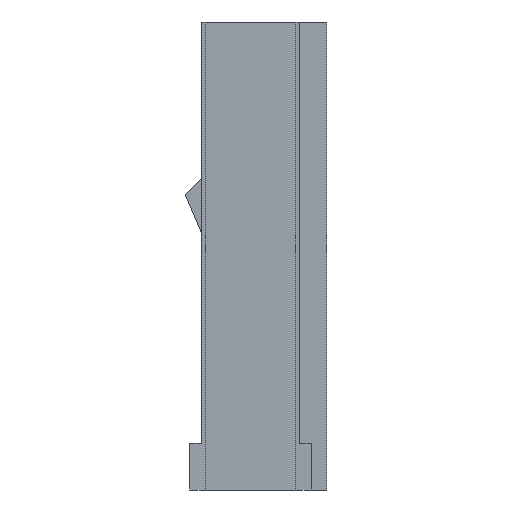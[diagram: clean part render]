
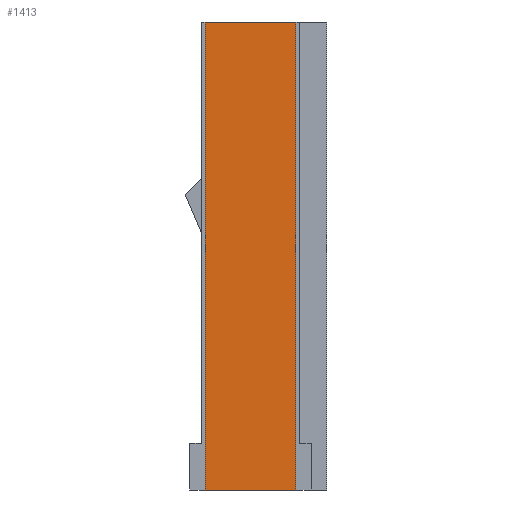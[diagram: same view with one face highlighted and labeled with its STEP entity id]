
A CAD part, left-side view. The second image highlights one B-rep face of the part: STEP entity #1413.
In plain terms, the highlighted planar face has unit normal (-1, 0, 0).
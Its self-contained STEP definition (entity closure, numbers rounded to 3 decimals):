
#134=DIRECTION('',(0.,0.,-1.));
#135=VECTOR('',#134,15.24);
#136=CARTESIAN_POINT('',(-3.81,1.473,0.));
#137=LINE('',#136,#135);
#138=DIRECTION('',(0.,-1.,0.));
#139=VECTOR('',#138,2.946);
#140=CARTESIAN_POINT('',(-3.81,1.473,0.));
#141=LINE('',#140,#139);
#142=DIRECTION('',(0.,0.,-1.));
#143=VECTOR('',#142,15.24);
#144=CARTESIAN_POINT('',(-3.81,-1.473,0.));
#145=LINE('',#144,#143);
#146=DIRECTION('',(0.,1.,0.));
#147=VECTOR('',#146,2.946);
#148=CARTESIAN_POINT('',(-3.81,-1.473,-15.24));
#149=LINE('',#148,#147);
#1158=CARTESIAN_POINT('',(-3.81,1.473,0.));
#1159=CARTESIAN_POINT('',(-3.81,1.473,-15.24));
#1160=VERTEX_POINT('',#1158);
#1161=VERTEX_POINT('',#1159);
#1162=CARTESIAN_POINT('',(-3.81,-1.473,0.));
#1163=CARTESIAN_POINT('',(-3.81,-1.473,-15.24));
#1164=VERTEX_POINT('',#1162);
#1165=VERTEX_POINT('',#1163);
#1398=CARTESIAN_POINT('',(-3.81,0.,0.));
#1399=DIRECTION('',(1.,0.,0.));
#1400=DIRECTION('',(0.,0.,-1.));
#1401=AXIS2_PLACEMENT_3D('',#1398,#1399,#1400);
#1402=PLANE('',#1401);
#1404=ORIENTED_EDGE('',*,*,#1403,.F.);
#1406=ORIENTED_EDGE('',*,*,#1405,.T.);
#1408=ORIENTED_EDGE('',*,*,#1407,.T.);
#1410=ORIENTED_EDGE('',*,*,#1409,.T.);
#1411=EDGE_LOOP('',(#1404,#1406,#1408,#1410));
#1412=FACE_OUTER_BOUND('',#1411,.F.);
#1403=EDGE_CURVE('',#1160,#1161,#137,.T.);
#1405=EDGE_CURVE('',#1160,#1164,#141,.T.);
#1407=EDGE_CURVE('',#1164,#1165,#145,.T.);
#1409=EDGE_CURVE('',#1165,#1161,#149,.T.);
#1413=ADVANCED_FACE('',(#1412),#1402,.F.);
